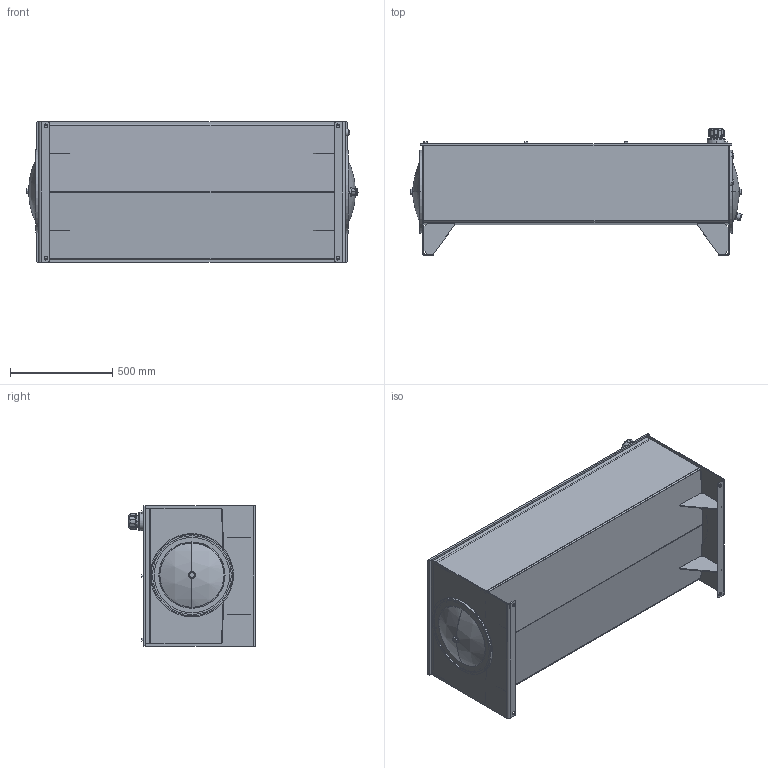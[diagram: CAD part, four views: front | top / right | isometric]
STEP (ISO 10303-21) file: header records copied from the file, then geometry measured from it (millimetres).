
FILE_DESCRIPTION (( 'STEP AP203' ), '1' );
FILE_NAME ('RJIC080-RT.STEP', '2015-01-08T15:45:59', ( '' ), ( '' ), 'SwSTEP 2.0', 'SolidWorks 2014', '' );
FILE_SCHEMA (( 'CONFIG_CONTROL_DESIGN' ));
Length unit declared in the file: inch
Products named in the file (1): RJIC080-RT
Bounding box: 1623.84 x 621.03 x 685.8 mm (x, y, z)
Volume: 24186131.7 mm3; surface area: 10097951.7 mm2
Topology: 48 solids, 48 shells, 1077 faces, 2465 edges, 1508 vertices
Faces by surface type: plane 404, cylinder 366, torus 123, cone 104, bspline 48, sphere 32
Entity records: 33442 total; most frequent: CARTESIAN_POINT 8500, DIRECTION 5522, ORIENTED_EDGE 4906, EDGE_CURVE 2453, AXIS2_PLACEMENT_3D 2187, VERTEX_POINT 1508, EDGE_LOOP 1245, CIRCLE 1157
